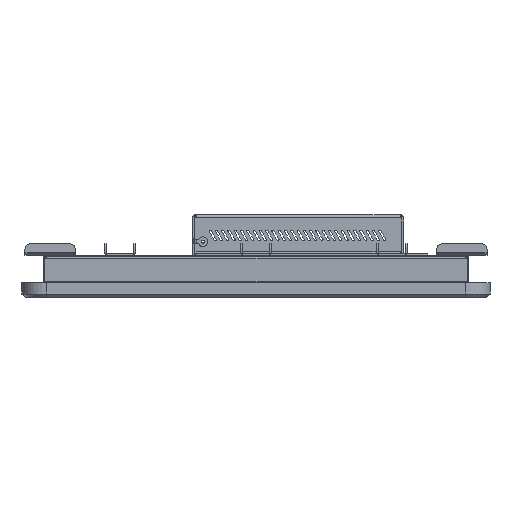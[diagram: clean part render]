
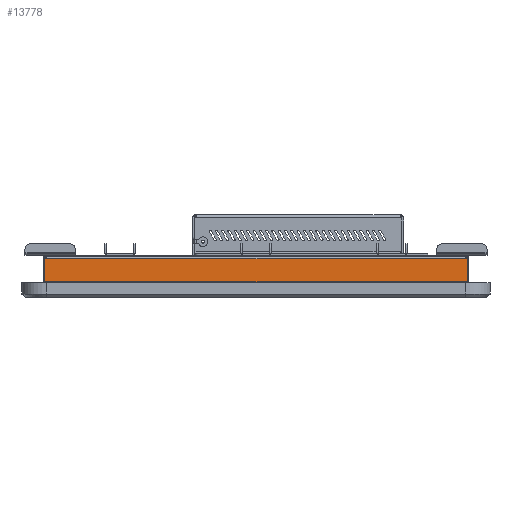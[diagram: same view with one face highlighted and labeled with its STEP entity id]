
A CAD part, left-side view. The second image highlights one B-rep face of the part: STEP entity #13778.
In plain terms, the highlighted planar face has unit normal (-1, 0, 0).
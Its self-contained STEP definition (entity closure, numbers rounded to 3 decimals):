
#13778=ADVANCED_FACE('',(#48704),#48706,.F.);
#48704=FACE_BOUND('',#48705,.T.);
#48705=EDGE_LOOP('',(#77426,#77427,#77428,#77429));
#48706=PLANE('',#48707);
#48707=AXIS2_PLACEMENT_3D('',#48708,#48709,#48710);
#48708=CARTESIAN_POINT('',(-598.1,37.,546.122));
#48709=DIRECTION('',(1.,0.,0.));
#48710=DIRECTION('',(0.,0.,1.));
#77426=ORIENTED_EDGE('',*,*,#93331,.F.);
#77427=ORIENTED_EDGE('',*,*,#97456,.T.);
#77428=ORIENTED_EDGE('',*,*,#97457,.T.);
#77429=ORIENTED_EDGE('',*,*,#97458,.T.);
#93331=EDGE_CURVE('',#105703,#105705,#105706,.T.);
#97456=EDGE_CURVE('',#105703,#112632,#112633,.T.);
#97457=EDGE_CURVE('',#112632,#112634,#112635,.T.);
#97458=EDGE_CURVE('',#112634,#105705,#112636,.T.);
#105703=VERTEX_POINT('',#128187);
#105705=VERTEX_POINT('',#128192);
#105706=LINE('',#128193,#128194);
#112632=VERTEX_POINT('',#144309);
#112633=LINE('',#144310,#144311);
#112634=VERTEX_POINT('',#144313);
#112635=LINE('',#144314,#144315);
#112636=LINE('',#144317,#144318);
#128187=CARTESIAN_POINT('',(-598.1,346.359,28.5));
#128192=CARTESIAN_POINT('',(-598.1,35.841,28.5));
#128193=CARTESIAN_POINT('',(-598.1,346.359,28.5));
#128194=VECTOR('',#128195,1.);
#128195=DIRECTION('',(0.,-1.,0.));
#144309=CARTESIAN_POINT('',(-598.1,346.359,11.5));
#144310=CARTESIAN_POINT('',(-598.1,346.359,28.5));
#144311=VECTOR('',#144312,1.);
#144312=DIRECTION('',(0.,0.,-1.));
#144313=CARTESIAN_POINT('',(-598.1,35.841,11.5));
#144314=CARTESIAN_POINT('',(-598.1,346.359,11.5));
#144315=VECTOR('',#144316,1.);
#144316=DIRECTION('',(0.,-1.,0.));
#144317=CARTESIAN_POINT('',(-598.1,35.841,11.5));
#144318=VECTOR('',#144319,1.);
#144319=DIRECTION('',(0.,0.,1.));
